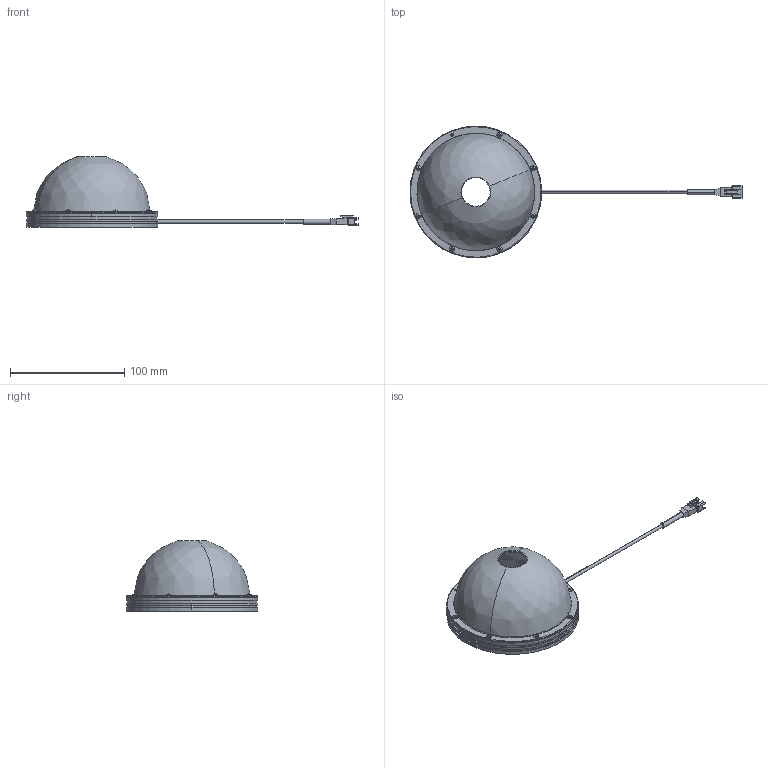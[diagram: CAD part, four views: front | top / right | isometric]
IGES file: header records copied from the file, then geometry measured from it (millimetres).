
Start section: 3D InterOp IGES (v. 2019 1.0.2), Spatial Corp. Copyright (c) 1999-2017.
Global section: file name: VDO-115_DRAWING_3D.iges; native system: Spatial Corp.; preprocessor: 3D InterOp ACIS/IGES; author: Noname; organization: Noname; date: 20230912.190555; units: millimetre
Bounding box: 290 x 115 x 61.32 mm (x, y, z)
Surface area: 76532.7 mm2 (no closed solid volume)
Topology: 0 solids, 0 shells, 590 faces, 3004 edges, 2947 vertices
Faces by surface type: extrusion 323, revolution 263, bspline 4
